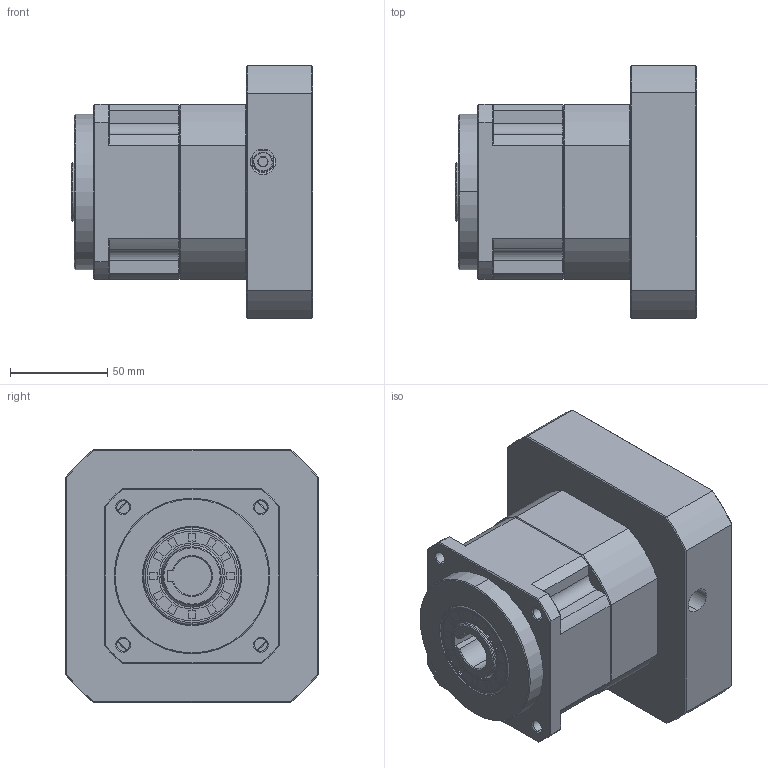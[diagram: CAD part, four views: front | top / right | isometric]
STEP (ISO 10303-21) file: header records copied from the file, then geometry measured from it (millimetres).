
FILE_DESCRIPTION (( 'STEP AP214' ), '1' );
FILE_NAME ('ZPB090-K20-L1-P1-19-110-145-M8.step', '2024-06-07T18:24:08', ( 'Windows 蚚誧' ), ( 'Organization' ), 'SwSTEP 2.0', 'SolidWorks 2016', '' );
FILE_SCHEMA (( 'AUTOMOTIVE_DESIGN' ));
Length unit declared in the file: millimetre
Products named in the file (1): ZPB090-K20-L1-P1-19-110-145-M8
Bounding box: 124 x 130 x 130 mm (x, y, z)
Surface area: 104028.8 mm2 (no closed solid volume)
Topology: 0 solids, 34 shells, 1792 faces, 4787 edges, 3062 vertices
Faces by surface type: plane 926, bspline 383, cone 270, cylinder 213
Entity records: 86632 total; most frequent: CARTESIAN_POINT 40172, ORIENTED_EDGE 9554, DIRECTION 7348, EDGE_CURVE 4787, VECTOR 3174, LINE 3174, VERTEX_POINT 3062, AXIS2_PLACEMENT_3D 2087
